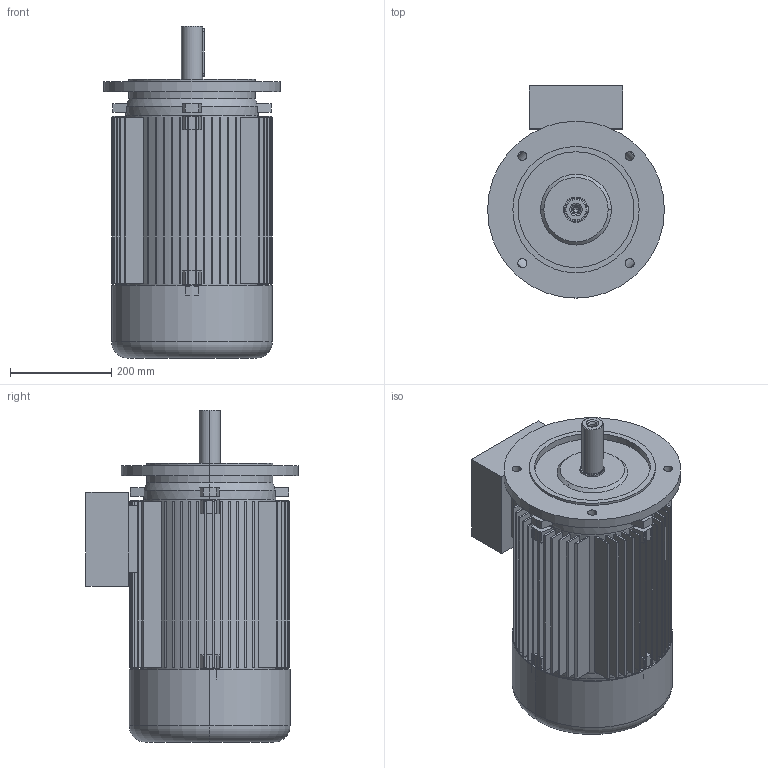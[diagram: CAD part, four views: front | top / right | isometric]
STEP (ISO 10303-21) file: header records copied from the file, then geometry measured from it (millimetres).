
FILE_DESCRIPTION (( 'STEP AP203' ), '1' );
FILE_NAME ('5AZ 160L B5 STANDK.STEP', '2017-11-10T11:10:35', ( '' ), ( '' ), 'SwSTEP 2.0', 'SolidWorks 2017', '' );
FILE_SCHEMA (( 'CONFIG_CONTROL_DESIGN' ));
Length unit declared in the file: millimetre
Products named in the file (1): 5AZ 160L B5 STANDK
Bounding box: 350 x 420 x 657 mm (x, y, z)
Volume: 12989773.9 mm3; surface area: 2681209.4 mm2
Topology: 7 solids, 7 shells, 494 faces, 1266 edges, 835 vertices
Faces by surface type: plane 327, cylinder 141, cone 22, torus 4
Entity records: 15281 total; most frequent: CARTESIAN_POINT 2730, DIRECTION 2722, ORIENTED_EDGE 2528, EDGE_CURVE 1264, AXIS2_PLACEMENT_3D 983, VERTEX_POINT 835, LINE 756, VECTOR 756
